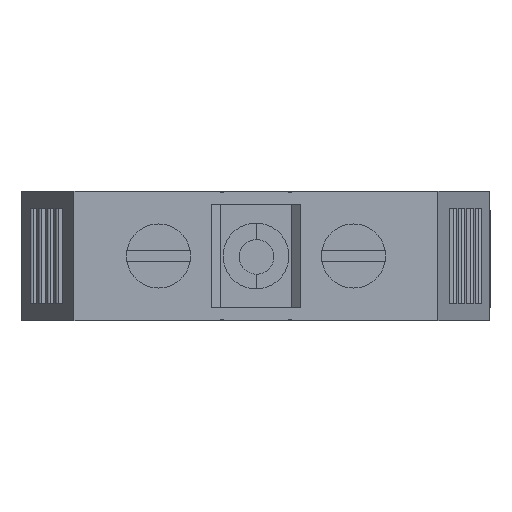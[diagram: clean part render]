
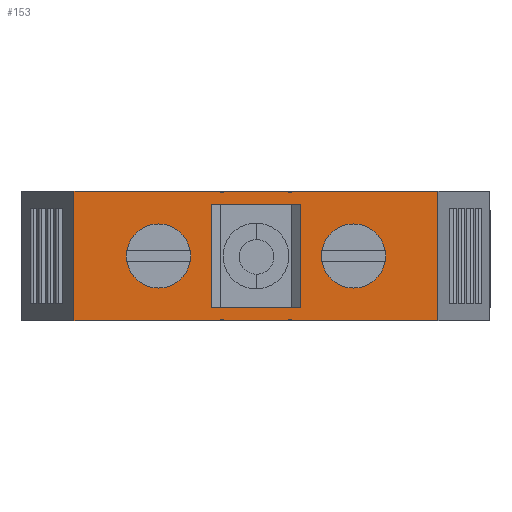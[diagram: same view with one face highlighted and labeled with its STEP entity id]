
A CAD part, front view. The second image highlights one B-rep face of the part: STEP entity #153.
In plain terms, the highlighted planar face has unit normal (0, -1, 0) as drawn and (0, 1, 0) by its records, which use the part's own axes.
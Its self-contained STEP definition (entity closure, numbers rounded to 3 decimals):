
#153=ADVANCED_FACE('',(#23801,#23803,#23805,#23807),#23809,.T.);
#23801=FACE_BOUND('',#23802,.T.);
#23802=EDGE_LOOP('',(#42637,#42638,#42639,#42640,#42641,#42642,#42643,#42644,#42645,
#42646,#42647,#42648,#42649,#42650,#42651,#42652,#42653,#42654,#42655,#42656));
#23803=FACE_BOUND('',#23804,.T.);
#23804=EDGE_LOOP('',(#42657));
#23805=FACE_BOUND('',#23806,.T.);
#23806=EDGE_LOOP('',(#42658,#42659,#42660,#42661));
#23807=FACE_BOUND('',#23808,.T.);
#23808=EDGE_LOOP('',(#42662));
#23809=PLANE('',#23810);
#23810=AXIS2_PLACEMENT_3D('',#23811,#23812,#23813);
#23811=CARTESIAN_POINT('',(-31.,-75.5,33.));
#23812=DIRECTION('',(-0.,1.,-0.));
#23813=DIRECTION('',(1.,0.,0.));
#42637=ORIENTED_EDGE('',*,*,#57750,.F.);
#42638=ORIENTED_EDGE('',*,*,#57751,.F.);
#42639=ORIENTED_EDGE('',*,*,#57752,.F.);
#42640=ORIENTED_EDGE('',*,*,#57753,.F.);
#42641=ORIENTED_EDGE('',*,*,#57666,.F.);
#42642=ORIENTED_EDGE('',*,*,#57754,.F.);
#42643=ORIENTED_EDGE('',*,*,#57755,.T.);
#42644=ORIENTED_EDGE('',*,*,#57756,.T.);
#42645=ORIENTED_EDGE('',*,*,#57757,.T.);
#42646=ORIENTED_EDGE('',*,*,#57758,.T.);
#42647=ORIENTED_EDGE('',*,*,#57759,.T.);
#42648=ORIENTED_EDGE('',*,*,#57760,.T.);
#42649=ORIENTED_EDGE('',*,*,#57761,.T.);
#42650=ORIENTED_EDGE('',*,*,#57746,.T.);
#42651=ORIENTED_EDGE('',*,*,#57762,.T.);
#42652=ORIENTED_EDGE('',*,*,#57763,.T.);
#42653=ORIENTED_EDGE('',*,*,#57611,.F.);
#42654=ORIENTED_EDGE('',*,*,#57744,.F.);
#42655=ORIENTED_EDGE('',*,*,#57764,.F.);
#42656=ORIENTED_EDGE('',*,*,#57765,.F.);
#42657=ORIENTED_EDGE('',*,*,#57766,.T.);
#42658=ORIENTED_EDGE('',*,*,#57767,.F.);
#42659=ORIENTED_EDGE('',*,*,#57768,.T.);
#42660=ORIENTED_EDGE('',*,*,#57769,.T.);
#42661=ORIENTED_EDGE('',*,*,#57770,.T.);
#42662=ORIENTED_EDGE('',*,*,#57771,.T.);
#57611=EDGE_CURVE('',#65179,#65181,#65182,.T.);
#57666=EDGE_CURVE('',#65289,#65291,#65292,.T.);
#57744=EDGE_CURVE('',#65440,#65179,#65442,.F.);
#57746=EDGE_CURVE('',#65445,#65443,#65446,.F.);
#57750=EDGE_CURVE('',#65452,#65453,#65454,.T.);
#57751=EDGE_CURVE('',#65455,#65452,#65456,.F.);
#57752=EDGE_CURVE('',#65457,#65455,#65458,.T.);
#57753=EDGE_CURVE('',#65291,#65457,#65459,.F.);
#57754=EDGE_CURVE('',#65460,#65289,#65461,.T.);
#57755=EDGE_CURVE('',#65460,#65462,#65463,.T.);
#57756=EDGE_CURVE('',#65462,#65464,#65465,.F.);
#57757=EDGE_CURVE('',#65464,#65466,#65467,.T.);
#57758=EDGE_CURVE('',#65466,#65468,#65469,.F.);
#57759=EDGE_CURVE('',#65468,#65470,#65471,.T.);
#57760=EDGE_CURVE('',#65470,#65472,#65473,.F.);
#57761=EDGE_CURVE('',#65472,#65445,#65474,.T.);
#57762=EDGE_CURVE('',#65443,#65475,#65476,.T.);
#57763=EDGE_CURVE('',#65475,#65181,#65477,.T.);
#57764=EDGE_CURVE('',#65478,#65440,#65479,.T.);
#57765=EDGE_CURVE('',#65453,#65478,#65480,.F.);
#57766=EDGE_CURVE('',#65481,#65481,#65482,.F.);
#57767=EDGE_CURVE('',#65483,#65484,#65485,.T.);
#57768=EDGE_CURVE('',#65483,#65486,#65487,.F.);
#57769=EDGE_CURVE('',#65486,#65488,#65489,.T.);
#57770=EDGE_CURVE('',#65488,#65484,#65490,.F.);
#57771=EDGE_CURVE('',#65491,#65491,#65492,.F.);
#65179=VERTEX_POINT('',#77759);
#65181=VERTEX_POINT('',#77763);
#65182=LINE('',#77764,#77765);
#65289=VERTEX_POINT('',#77993);
#65291=VERTEX_POINT('',#77997);
#65292=LINE('',#77998,#77999);
#65440=VERTEX_POINT('',#78329);
#65442=LINE('',#78333,#78334);
#65443=VERTEX_POINT('',#78336);
#65445=VERTEX_POINT('',#78340);
#65446=LINE('',#78341,#78342);
#65452=VERTEX_POINT('',#78355);
#65453=VERTEX_POINT('',#78356);
#65454=LINE('',#78357,#78358);
#65455=VERTEX_POINT('',#78360);
#65456=LINE('',#78361,#78362);
#65457=VERTEX_POINT('',#78364);
#65458=LINE('',#78365,#78366);
#65459=LINE('',#78368,#78369);
#65460=VERTEX_POINT('',#78371);
#65461=LINE('',#78372,#78373);
#65462=VERTEX_POINT('',#78375);
#65463=LINE('',#78376,#78377);
#65464=VERTEX_POINT('',#78379);
#65465=LINE('',#78380,#78381);
#65466=VERTEX_POINT('',#78383);
#65467=LINE('',#78384,#78385);
#65468=VERTEX_POINT('',#78387);
#65469=LINE('',#78388,#78389);
#65470=VERTEX_POINT('',#78391);
#65471=LINE('',#78392,#78393);
#65472=VERTEX_POINT('',#78395);
#65473=LINE('',#78396,#78397);
#65474=LINE('',#78399,#78400);
#65475=VERTEX_POINT('',#78402);
#65476=LINE('',#78403,#78404);
#65477=LINE('',#78406,#78407);
#65478=VERTEX_POINT('',#78409);
#65479=LINE('',#78410,#78411);
#65480=LINE('',#78413,#78414);
#65481=VERTEX_POINT('',#78416);
#65482=CIRCLE('',#78417,3.7);
#65483=VERTEX_POINT('',#78421);
#65484=VERTEX_POINT('',#78422);
#65485=LINE('',#78423,#78424);
#65486=VERTEX_POINT('',#78426);
#65487=LINE('',#78427,#78428);
#65488=VERTEX_POINT('',#78430);
#65489=LINE('',#78431,#78432);
#65490=LINE('',#78434,#78435);
#65491=VERTEX_POINT('',#78437);
#65492=CIRCLE('',#78438,3.7);
#77759=CARTESIAN_POINT('',(-5.85,-75.5,33.));
#77763=CARTESIAN_POINT('',(11.,-75.5,33.));
#77764=CARTESIAN_POINT('',(-5.85,-75.5,33.));
#77765=VECTOR('',#77766,1.);
#77766=DIRECTION('',(1.,0.,0.));
#77993=CARTESIAN_POINT('',(-31.,-75.5,33.));
#77997=CARTESIAN_POINT('',(-14.15,-75.5,33.));
#77998=CARTESIAN_POINT('',(-31.,-75.5,33.));
#77999=VECTOR('',#78000,1.);
#78000=DIRECTION('',(1.,0.,0.));
#78329=CARTESIAN_POINT('',(-5.85,-75.5,32.8));
#78333=CARTESIAN_POINT('',(-5.85,-75.5,33.));
#78334=VECTOR('',#78335,1.);
#78335=DIRECTION('',(0.,0.,-1.));
#78336=CARTESIAN_POINT('',(-5.85,-75.5,18.));
#78340=CARTESIAN_POINT('',(-5.85,-75.5,18.2));
#78341=CARTESIAN_POINT('',(-5.85,-75.5,18.));
#78342=VECTOR('',#78343,1.);
#78343=DIRECTION('',(0.,0.,1.));
#78355=CARTESIAN_POINT('',(-13.8,-75.5,33.));
#78356=CARTESIAN_POINT('',(-6.2,-75.5,33.));
#78357=CARTESIAN_POINT('',(-13.8,-75.5,33.));
#78358=VECTOR('',#78359,1.);
#78359=DIRECTION('',(1.,0.,0.));
#78360=CARTESIAN_POINT('',(-13.8,-75.5,32.8));
#78361=CARTESIAN_POINT('',(-13.8,-75.5,33.));
#78362=VECTOR('',#78363,1.);
#78363=DIRECTION('',(0.,0.,-1.));
#78364=CARTESIAN_POINT('',(-14.15,-75.5,32.8));
#78365=CARTESIAN_POINT('',(-14.15,-75.5,32.8));
#78366=VECTOR('',#78367,1.);
#78367=DIRECTION('',(1.,0.,0.));
#78368=CARTESIAN_POINT('',(-14.15,-75.5,32.8));
#78369=VECTOR('',#78370,1.);
#78370=DIRECTION('',(0.,0.,1.));
#78371=CARTESIAN_POINT('',(-31.,-75.5,18.));
#78372=CARTESIAN_POINT('',(-31.,-75.5,18.));
#78373=VECTOR('',#78374,1.);
#78374=DIRECTION('',(0.,0.,1.));
#78375=CARTESIAN_POINT('',(-14.15,-75.5,18.));
#78376=CARTESIAN_POINT('',(-31.,-75.5,18.));
#78377=VECTOR('',#78378,1.);
#78378=DIRECTION('',(1.,0.,0.));
#78379=CARTESIAN_POINT('',(-14.15,-75.5,18.2));
#78380=CARTESIAN_POINT('',(-14.15,-75.5,18.2));
#78381=VECTOR('',#78382,1.);
#78382=DIRECTION('',(0.,0.,-1.));
#78383=CARTESIAN_POINT('',(-13.8,-75.5,18.2));
#78384=CARTESIAN_POINT('',(-14.15,-75.5,18.2));
#78385=VECTOR('',#78386,1.);
#78386=DIRECTION('',(1.,0.,0.));
#78387=CARTESIAN_POINT('',(-13.8,-75.5,18.));
#78388=CARTESIAN_POINT('',(-13.8,-75.5,18.));
#78389=VECTOR('',#78390,1.);
#78390=DIRECTION('',(0.,0.,1.));
#78391=CARTESIAN_POINT('',(-6.2,-75.5,18.));
#78392=CARTESIAN_POINT('',(-13.8,-75.5,18.));
#78393=VECTOR('',#78394,1.);
#78394=DIRECTION('',(1.,0.,0.));
#78395=CARTESIAN_POINT('',(-6.2,-75.5,18.2));
#78396=CARTESIAN_POINT('',(-6.2,-75.5,18.2));
#78397=VECTOR('',#78398,1.);
#78398=DIRECTION('',(0.,0.,-1.));
#78399=CARTESIAN_POINT('',(-6.2,-75.5,18.2));
#78400=VECTOR('',#78401,1.);
#78401=DIRECTION('',(1.,0.,0.));
#78402=CARTESIAN_POINT('',(11.,-75.5,18.));
#78403=CARTESIAN_POINT('',(-5.85,-75.5,18.));
#78404=VECTOR('',#78405,1.);
#78405=DIRECTION('',(1.,0.,0.));
#78406=CARTESIAN_POINT('',(11.,-75.5,18.));
#78407=VECTOR('',#78408,1.);
#78408=DIRECTION('',(0.,0.,1.));
#78409=CARTESIAN_POINT('',(-6.2,-75.5,32.8));
#78410=CARTESIAN_POINT('',(-6.2,-75.5,32.8));
#78411=VECTOR('',#78412,1.);
#78412=DIRECTION('',(1.,0.,0.));
#78413=CARTESIAN_POINT('',(-6.2,-75.5,32.8));
#78414=VECTOR('',#78415,1.);
#78415=DIRECTION('',(0.,0.,1.));
#78416=CARTESIAN_POINT('',(-17.55,-75.5,25.5));
#78417=AXIS2_PLACEMENT_3D('',#78418,#78419,#78420);
#78418=CARTESIAN_POINT('',(-21.25,-75.5,25.5));
#78419=DIRECTION('',(0.,-1.,0.));
#78420=DIRECTION('',(-1.,-0.,0.));
#78421=CARTESIAN_POINT('',(-4.85,-75.5,31.5));
#78422=CARTESIAN_POINT('',(-15.15,-75.5,31.5));
#78423=CARTESIAN_POINT('',(-4.85,-75.5,31.5));
#78424=VECTOR('',#78425,1.);
#78425=DIRECTION('',(-1.,0.,0.));
#78426=CARTESIAN_POINT('',(-4.85,-75.5,19.5));
#78427=CARTESIAN_POINT('',(-4.85,-75.5,19.5));
#78428=VECTOR('',#78429,1.);
#78429=DIRECTION('',(0.,0.,1.));
#78430=CARTESIAN_POINT('',(-15.15,-75.5,19.5));
#78431=CARTESIAN_POINT('',(-4.85,-75.5,19.5));
#78432=VECTOR('',#78433,1.);
#78433=DIRECTION('',(-1.,0.,0.));
#78434=CARTESIAN_POINT('',(-15.15,-75.5,31.5));
#78435=VECTOR('',#78436,1.);
#78436=DIRECTION('',(0.,0.,-1.));
#78437=CARTESIAN_POINT('',(4.95,-75.5,25.5));
#78438=AXIS2_PLACEMENT_3D('',#78439,#78440,#78441);
#78439=CARTESIAN_POINT('',(1.25,-75.5,25.5));
#78440=DIRECTION('',(0.,-1.,0.));
#78441=DIRECTION('',(-1.,-0.,0.));
